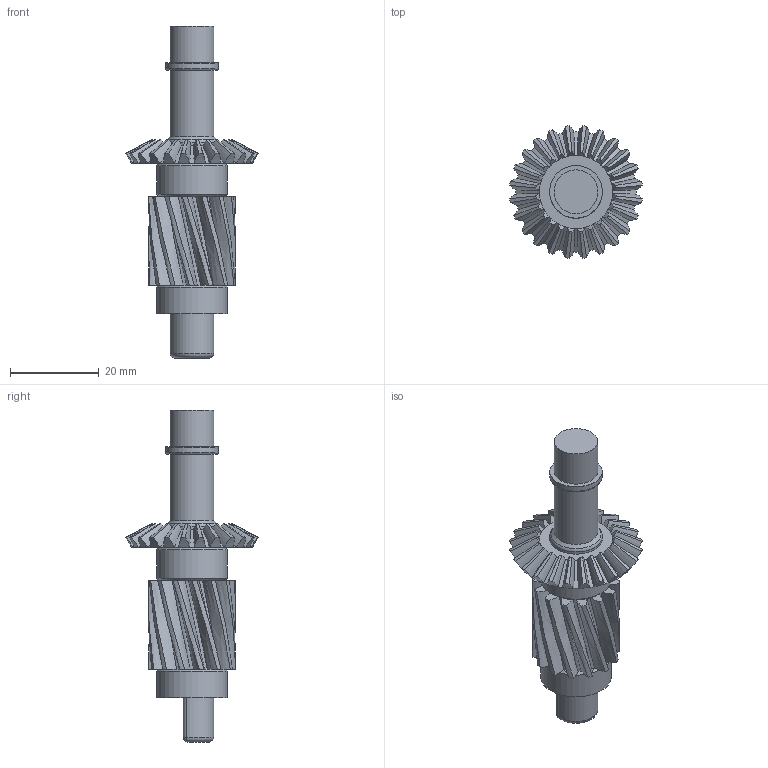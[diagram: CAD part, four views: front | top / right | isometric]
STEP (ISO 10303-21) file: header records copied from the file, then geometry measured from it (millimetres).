
FILE_DESCRIPTION(('STEP AP242'), '1');
FILE_NAME('Âàë ðåäóêòîðà.stp', '', ('UNSPECIFIED'), ('UNSPECIFIED'), 'C3D Converter', 'C3D Toolkit', '');
FILE_SCHEMA(('AP242_MANAGED_MODEL_BASED_3D_ENGINEERING_MIM_LF { 1 0 10303 442 1 1 4 }'));
Length unit declared in the file: millimetre
Products named in the file (1): Вал редуктора.stp
Bounding box: 29.92 x 29.92 x 75 mm (x, y, z)
Volume: 12137.7 mm3; surface area: 8456.9 mm2
Topology: 1 solids, 1 shells, 302 faces, 702 edges, 411 vertices
Faces by surface type: cone 103, bspline 90, plane 75, cylinder 28, torus 4, sphere 2
Full cylindrical faces by diameter (mm): 9.9 x2, 11.9 x2, 16 x2
Entity records: 18510 total; most frequent: CARTESIAN_POINT 10653, ORIENTED_EDGE 1378, DIRECTION 990, EDGE_CURVE 689, AXIS2_PLACEMENT_3D 482, VERTEX_POINT 411, B_SPLINE_CURVE_WITH_KNOTS 394, EDGE_LOOP 324
